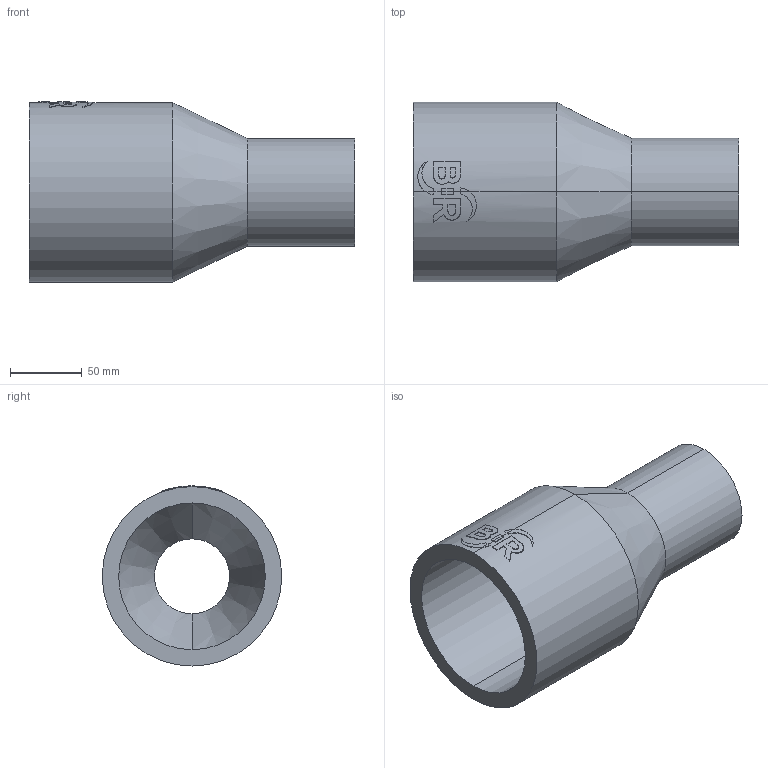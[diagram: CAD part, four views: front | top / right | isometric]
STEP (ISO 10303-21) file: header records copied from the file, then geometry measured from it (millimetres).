
FILE_DESCRIPTION (( 'STEP AP214' ), '1' );
FILE_NAME ('2323151215.STEP', '2018-07-20T10:16:26', ( '' ), ( '' ), 'SwSTEP 2.0', 'SolidWorks 2017', '' );
FILE_SCHEMA (( 'AUTOMOTIVE_DESIGN' ));
Length unit declared in the file: millimetre
Products named in the file (1): 2323151215
Bounding box: 227 x 125 x 125.46 mm (x, y, z)
Volume: 758724.8 mm3; surface area: 139575.6 mm2
Topology: 1 solids, 1 shells, 63 faces, 160 edges, 104 vertices
Faces by surface type: cylinder 31, plane 28, cone 4
Entity records: 3201 total; most frequent: CARTESIAN_POINT 992, ORIENTED_EDGE 320, DIRECTION 296, EDGE_CURVE 160, AXIS2_PLACEMENT_3D 112, VERTEX_POINT 104, VECTOR 72, LINE 72
